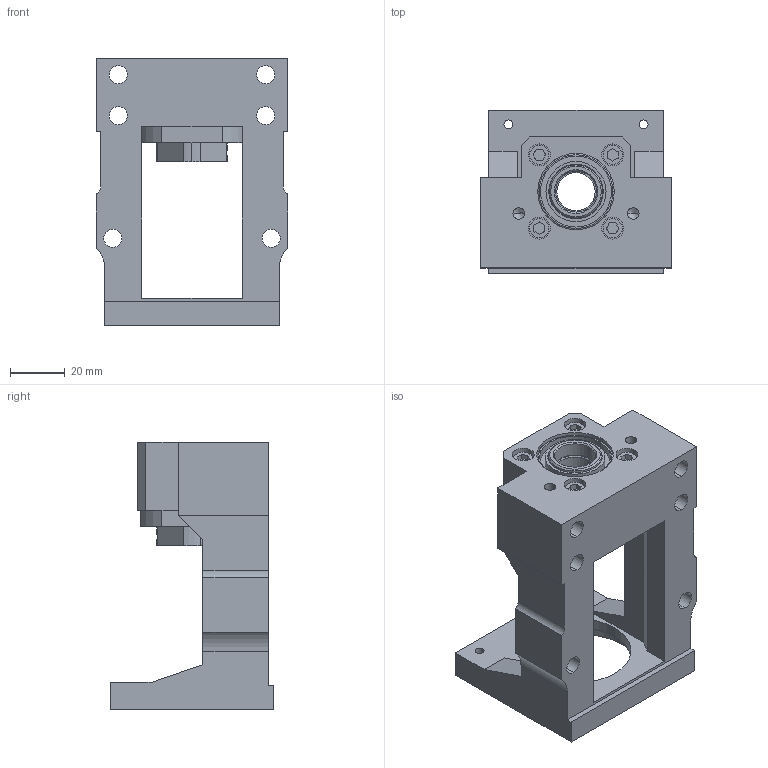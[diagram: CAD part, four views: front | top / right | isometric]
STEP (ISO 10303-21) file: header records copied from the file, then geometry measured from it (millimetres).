
FILE_DESCRIPTION (( 'STEP AP203' ), '1' );
FILE_NAME ('MBCB15-DP.STEP', '2023-01-12T00:34:56', ( '' ), ( '' ), 'SwSTEP 2.0', 'SolidWorks 2018', '' );
FILE_SCHEMA (( 'CONFIG_CONTROL_DESIGN' ));
Length unit declared in the file: millimetre
Products named in the file (12): 7002內圈; 7002鋼珠4.7625; 7002; BK15套筒; M15鎖固螺帽_M15; BK系列密封圈_BK15密封圈; MBC15; MBCB15-DP_網路下載圖面; 螺絲_M4L25; 7002外圈; MBCB15-DP; 7002保持器
Assembly tree (28 placements, depth 3):
  MBCB15-DP
    MBCB15-DP_網路下載圖面
    7002  x2
      7002外圈
      7002保持器
      7002內圈
      7002鋼珠4.7625
    BK15套筒  x2
    BK系列密封圈_BK15密封圈  x2
    M15鎖固螺帽_M15
    MBC15
    螺絲_M4L25  x4
Bounding box: 70 x 60 x 98 mm (x, y, z)
Volume: 124310.7 mm3; surface area: 60525.5 mm2
Topology: 41 solids, 42 shells, 550 faces, 1346 edges, 846 vertices
Faces by surface type: cylinder 230, plane 136, torus 96, sphere 48, cone 40
Entity records: 13564 total; most frequent: CARTESIAN_POINT 3481, DIRECTION 1882, ORIENTED_EDGE 1624, EDGE_CURVE 812, AXIS2_PLACEMENT_3D 761, VERTEX_POINT 510, EDGE_LOOP 444, CIRCLE 388
